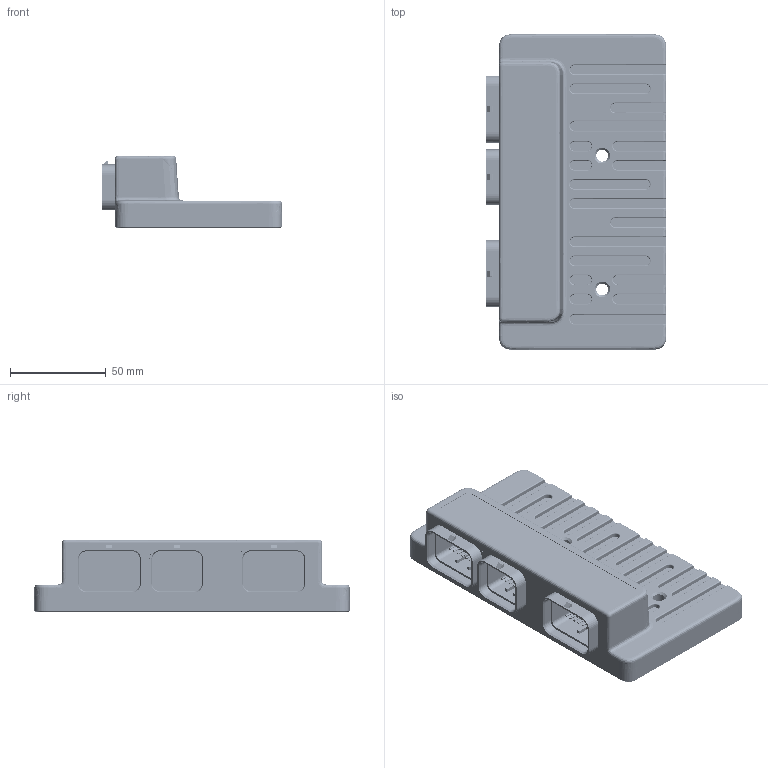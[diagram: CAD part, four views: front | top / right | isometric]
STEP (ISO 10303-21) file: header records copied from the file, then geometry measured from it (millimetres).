
FILE_DESCRIPTION (( 'STEP AP214' ), '1' );
FILE_NAME ('EMU PRO 8.STEP', '2022-12-16T14:20:38', ( '' ), ( '' ), 'SwSTEP 2.0', 'SolidWorks 2021', '' );
FILE_SCHEMA (( 'AUTOMOTIVE_DESIGN' ));
Length unit declared in the file: millimetre
Products named in the file (6): TR Fastenings Ltd-M3X12mm_M3X8mm; EMU_PRO_8_seal; EMU_PRO_8_PCB; EMU PRO 8; EMU_PRO_8_case_lower; EMU_PRO_8_case_upper
Assembly tree (21 placements, depth 2):
  EMU PRO 8
    EMU_PRO_8_PCB
    EMU_PRO_8_case_upper
    EMU_PRO_8_case_lower
    EMU_PRO_8_seal
    TR Fastenings Ltd-M3X12mm_M3X8mm  x17
Bounding box: 94.5 x 165 x 38.1 mm (x, y, z)
Volume: 148436.2 mm3; surface area: 127733 mm2
Topology: 22 solids, 22 shells, 3644 faces, 8883 edges, 5443 vertices
Faces by surface type: cylinder 1843, plane 1056, torus 304, cone 258, bspline 167, sphere 16
Entity records: 113261 total; most frequent: CARTESIAN_POINT 24500, DIRECTION 15787, ORIENTED_EDGE 14304, EDGE_CURVE 7152, AXIS2_PLACEMENT_3D 6282, VERTEX_POINT 4467, CIRCLE 3469, EDGE_LOOP 3459
